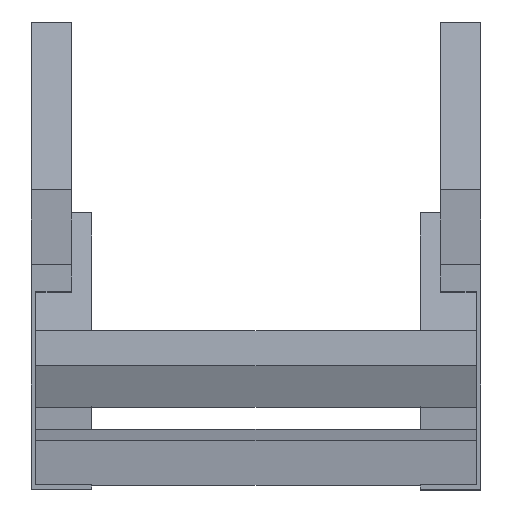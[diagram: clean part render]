
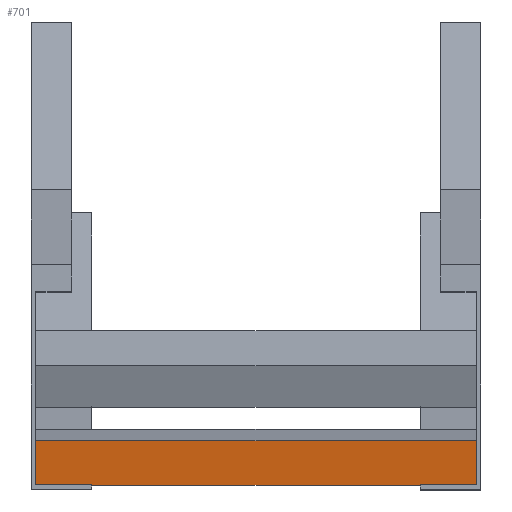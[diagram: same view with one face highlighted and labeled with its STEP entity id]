
A CAD part, top view. The second image highlights one B-rep face of the part: STEP entity #701.
In plain terms, the highlighted planar face has unit normal (0, -0.131, 0.991) as drawn and (0, 0, 1) by its records, which use the part's own axes.
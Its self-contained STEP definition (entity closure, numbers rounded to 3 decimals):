
#64 = DIRECTION ( 'NONE',  ( -1., 0., 0. ) ) ;
#161 = CARTESIAN_POINT ( 'NONE',  ( 98., 20., 20.25 ) ) ;
#178 = DIRECTION ( 'NONE',  ( -1., 0., 0. ) ) ;
#306 = DIRECTION ( 'NONE',  ( 0., -1., 0. ) ) ;
#333 = ORIENTED_EDGE ( 'NONE', *, *, #1038, .T. ) ;
#355 = VECTOR ( 'NONE', #64, 1000. ) ;
#365 = DIRECTION ( 'NONE',  ( 0., 1., 0. ) ) ;
#368 = FACE_OUTER_BOUND ( 'NONE', #1025, .T. ) ;
#399 = DIRECTION ( 'NONE',  ( 0., -1., 0. ) ) ;
#462 = EDGE_CURVE ( 'NONE', #586, #1151, #897, .T. ) ;
#473 = PLANE ( 'NONE',  #754 ) ;
#475 = VERTEX_POINT ( 'NONE', #984 ) ;
#510 = LINE ( 'NONE', #1446, #883 ) ;
#586 = VERTEX_POINT ( 'NONE', #161 ) ;
#646 = LINE ( 'NONE', #840, #1214 ) ;
#666 = CARTESIAN_POINT ( 'NONE',  ( 98., 20., 20.25 ) ) ;
#701 = ADVANCED_FACE ( 'NONE', ( #368 ), #473, .F. ) ;
#748 = LINE ( 'NONE', #977, #853 ) ;
#754 = AXIS2_PLACEMENT_3D ( 'NONE', #824, #1411, #365 ) ;
#777 = ORIENTED_EDGE ( 'NONE', *, *, #1401, .F. ) ;
#801 = ORIENTED_EDGE ( 'NONE', *, *, #462, .T. ) ;
#824 = CARTESIAN_POINT ( 'NONE',  ( 98., 20., 20.25 ) ) ;
#840 = CARTESIAN_POINT ( 'NONE',  ( -98., 20., 20.25 ) ) ;
#853 = VECTOR ( 'NONE', #306, 1000. ) ;
#883 = VECTOR ( 'NONE', #178, 1000. ) ;
#897 = LINE ( 'NONE', #666, #355 ) ;
#977 = CARTESIAN_POINT ( 'NONE',  ( 98., 20., 20.25 ) ) ;
#984 = CARTESIAN_POINT ( 'NONE',  ( 98., 0., 20.25 ) ) ;
#1025 = EDGE_LOOP ( 'NONE', ( #333, #777, #1416, #801 ) ) ;
#1038 = EDGE_CURVE ( 'NONE', #1151, #1203, #646, .T. ) ;
#1040 = EDGE_CURVE ( 'NONE', #586, #475, #748, .T. ) ;
#1091 = CARTESIAN_POINT ( 'NONE',  ( -98., 0., 20.25 ) ) ;
#1151 = VERTEX_POINT ( 'NONE', #1492 ) ;
#1203 = VERTEX_POINT ( 'NONE', #1091 ) ;
#1214 = VECTOR ( 'NONE', #399, 1000. ) ;
#1401 = EDGE_CURVE ( 'NONE', #475, #1203, #510, .T. ) ;
#1411 = DIRECTION ( 'NONE',  ( 0., 0., -1. ) ) ;
#1416 = ORIENTED_EDGE ( 'NONE', *, *, #1040, .F. ) ;
#1446 = CARTESIAN_POINT ( 'NONE',  ( 98., 0., 20.25 ) ) ;
#1492 = CARTESIAN_POINT ( 'NONE',  ( -98., 20., 20.25 ) ) ;
